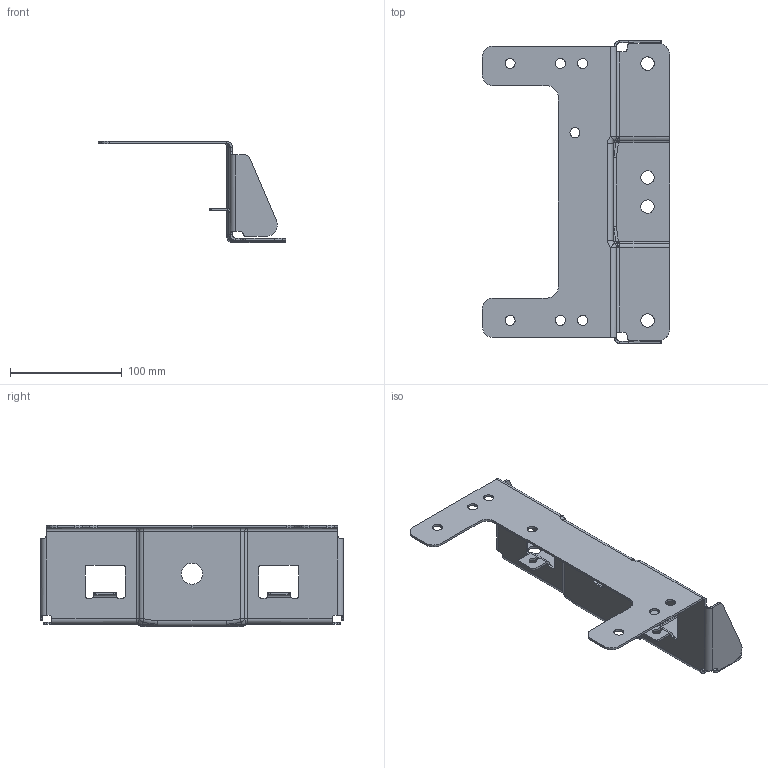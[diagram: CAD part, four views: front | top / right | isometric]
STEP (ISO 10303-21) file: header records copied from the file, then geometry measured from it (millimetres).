
FILE_DESCRIPTION(('CATIA V5 STEP Exchange'),'2;1');
FILE_NAME('F:\福田A6\1-数据\6-冻结数据\第九批\设变\静电导线设变\SHT0016014-宽车主驾驶底部支架焊接总成\更改后数据\SHT0016146-宽车主驾驶后侧钣金\SHT0016146-20241101.stp','2024-11-01T03:28:52+00:00',('none'),('none'),'CATIA Version 5 Release 20 GA (IN-10)','CATIA V5 STEP AP203','none');
FILE_SCHEMA(('CONFIG_CONTROL_DESIGN'));
Length unit declared in the file: millimetre
Products named in the file (1): SHT0016146
Bounding box: 167.66 x 271 x 90.5 mm (x, y, z)
Volume: 109953.5 mm3; surface area: 114086.6 mm2
Topology: 1 solids, 1 shells, 306 faces, 887 edges, 575 vertices
Faces by surface type: bspline 170, cylinder 64, plane 50, sphere 12, torus 8, revolution 2
Entity records: 12468 total; most frequent: CARTESIAN_POINT 6110, ORIENTED_EDGE 1758, EDGE_CURVE 879, VERTEX_POINT 575, B_SPLINE_CURVE_WITH_KNOTS 558, DIRECTION 535, EDGE_LOOP 338, ADVANCED_FACE 306
